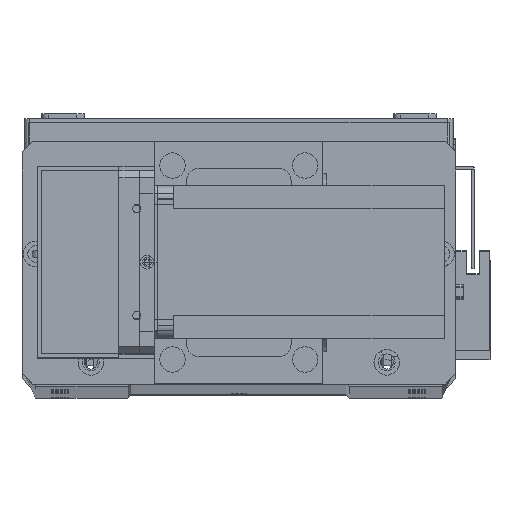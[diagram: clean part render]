
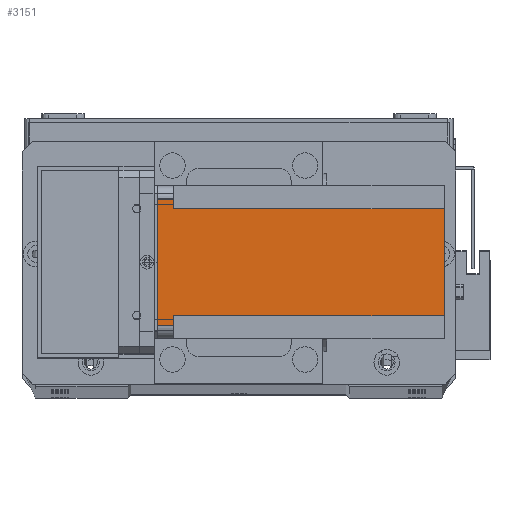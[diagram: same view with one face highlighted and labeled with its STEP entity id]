
A CAD part, top view. The second image highlights one B-rep face of the part: STEP entity #3151.
In plain terms, the highlighted planar face has unit normal (0, 0, 1) as drawn and (-1, 0, 0) by its records, which use the part's own axes.
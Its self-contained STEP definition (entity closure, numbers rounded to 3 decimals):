
#36 = VERTEX_POINT ( 'NONE', #25646 ) ;
#325 = CARTESIAN_POINT ( 'NONE',  ( 0., 55., -6.5 ) ) ;
#372 = FACE_OUTER_BOUND ( 'NONE', #24082, .T. ) ;
#885 = VERTEX_POINT ( 'NONE', #16521 ) ;
#917 = ORIENTED_EDGE ( 'NONE', *, *, #22200, .F. ) ;
#1537 = CARTESIAN_POINT ( 'NONE',  ( 0., 5., -112.5 ) ) ;
#2646 = VECTOR ( 'NONE', #21074, 1000. ) ;
#2684 = CARTESIAN_POINT ( 'NONE',  ( 0., 0., -112.5 ) ) ;
#2927 = CARTESIAN_POINT ( 'NONE',  ( 0., 9., -6.5 ) ) ;
#3151 = ADVANCED_FACE ( 'NONE', ( #372 ), #20950, .T. ) ;
#3465 = LINE ( 'NONE', #10720, #2646 ) ;
#3469 = VERTEX_POINT ( 'NONE', #9166 ) ;
#3516 = EDGE_CURVE ( 'NONE', #6636, #885, #11369, .T. ) ;
#3903 = ORIENTED_EDGE ( 'NONE', *, *, #13322, .F. ) ;
#3998 = DIRECTION ( 'NONE',  ( 0., 0., 1. ) ) ;
#4071 = DIRECTION ( 'NONE',  ( 0., -1., 0. ) ) ;
#4151 = DIRECTION ( 'NONE',  ( 0., 0., 1. ) ) ;
#5197 = LINE ( 'NONE', #19710, #32209 ) ;
#5350 = CARTESIAN_POINT ( 'NONE',  ( 0., 9., -112.5 ) ) ;
#5377 = AXIS2_PLACEMENT_3D ( 'NONE', #2684, #23599, #7947 ) ;
#5862 = VERTEX_POINT ( 'NONE', #25901 ) ;
#5995 = EDGE_CURVE ( 'NONE', #24436, #885, #3465, .T. ) ;
#6014 = VERTEX_POINT ( 'NONE', #2927 ) ;
#6167 = ORIENTED_EDGE ( 'NONE', *, *, #26390, .T. ) ;
#6636 = VERTEX_POINT ( 'NONE', #8718 ) ;
#7947 = DIRECTION ( 'NONE',  ( 0., -1., 0. ) ) ;
#8718 = CARTESIAN_POINT ( 'NONE',  ( 0., 5., -6.5 ) ) ;
#9112 = DIRECTION ( 'NONE',  ( 0., 1., 0. ) ) ;
#9166 = CARTESIAN_POINT ( 'NONE',  ( 0., 51., -112.5 ) ) ;
#9595 = CARTESIAN_POINT ( 'NONE',  ( 0., 55., -112.5 ) ) ;
#10720 = CARTESIAN_POINT ( 'NONE',  ( 0., 0., 0. ) ) ;
#11369 = LINE ( 'NONE', #1537, #19931 ) ;
#12696 = CARTESIAN_POINT ( 'NONE',  ( 0., 60., -6.5 ) ) ;
#13322 = EDGE_CURVE ( 'NONE', #3469, #36, #20251, .T. ) ;
#13350 = VECTOR ( 'NONE', #3998, 1000. ) ;
#14445 = ORIENTED_EDGE ( 'NONE', *, *, #23733, .F. ) ;
#15136 = VERTEX_POINT ( 'NONE', #325 ) ;
#15616 = LINE ( 'NONE', #27402, #22532 ) ;
#16521 = CARTESIAN_POINT ( 'NONE',  ( 0., 5., 0. ) ) ;
#17042 = CARTESIAN_POINT ( 'NONE',  ( 0., 51., -112.5 ) ) ;
#17822 = DIRECTION ( 'NONE',  ( 0., 1., 0. ) ) ;
#18556 = CARTESIAN_POINT ( 'NONE',  ( 0., 55., 0. ) ) ;
#19237 = LINE ( 'NONE', #12696, #20874 ) ;
#19710 = CARTESIAN_POINT ( 'NONE',  ( 0., 0., -112.5 ) ) ;
#19931 = VECTOR ( 'NONE', #4151, 1000. ) ;
#20251 = LINE ( 'NONE', #17042, #13350 ) ;
#20685 = EDGE_CURVE ( 'NONE', #24436, #15136, #33096, .T. ) ;
#20874 = VECTOR ( 'NONE', #17822, 1000. ) ;
#20950 = PLANE ( 'NONE',  #5377 ) ;
#21074 = DIRECTION ( 'NONE',  ( 0., -1., 0. ) ) ;
#22200 = EDGE_CURVE ( 'NONE', #6014, #5862, #23041, .T. ) ;
#22532 = VECTOR ( 'NONE', #9112, 1000. ) ;
#23041 = LINE ( 'NONE', #5350, #24683 ) ;
#23599 = DIRECTION ( 'NONE',  ( -1., 0., 0. ) ) ;
#23626 = DIRECTION ( 'NONE',  ( 0., 0., -1. ) ) ;
#23733 = EDGE_CURVE ( 'NONE', #6636, #6014, #15616, .T. ) ;
#23821 = EDGE_CURVE ( 'NONE', #36, #15136, #19237, .T. ) ;
#24082 = EDGE_LOOP ( 'NONE', ( #14445, #28820, #27459, #32169, #33466, #3903, #6167, #917 ) ) ;
#24436 = VERTEX_POINT ( 'NONE', #18556 ) ;
#24683 = VECTOR ( 'NONE', #23626, 1000. ) ;
#25646 = CARTESIAN_POINT ( 'NONE',  ( 0., 51., -6.5 ) ) ;
#25901 = CARTESIAN_POINT ( 'NONE',  ( 0., 9., -112.5 ) ) ;
#26390 = EDGE_CURVE ( 'NONE', #3469, #5862, #5197, .T. ) ;
#26929 = VECTOR ( 'NONE', #33168, 1000. ) ;
#27402 = CARTESIAN_POINT ( 'NONE',  ( 0., 0., -6.5 ) ) ;
#27459 = ORIENTED_EDGE ( 'NONE', *, *, #5995, .F. ) ;
#28820 = ORIENTED_EDGE ( 'NONE', *, *, #3516, .T. ) ;
#32169 = ORIENTED_EDGE ( 'NONE', *, *, #20685, .T. ) ;
#32209 = VECTOR ( 'NONE', #4071, 1000. ) ;
#33096 = LINE ( 'NONE', #9595, #26929 ) ;
#33168 = DIRECTION ( 'NONE',  ( 0., 0., -1. ) ) ;
#33466 = ORIENTED_EDGE ( 'NONE', *, *, #23821, .F. ) ;
